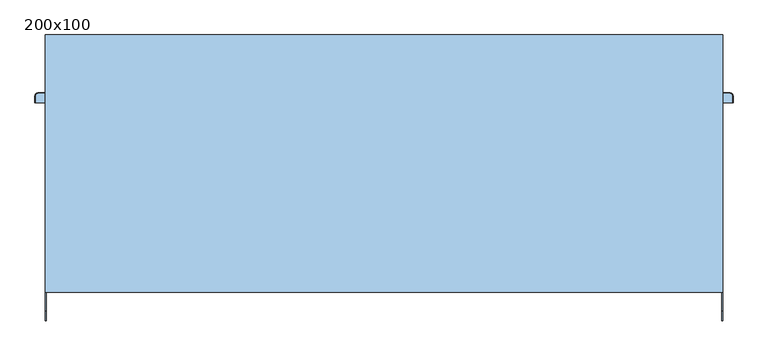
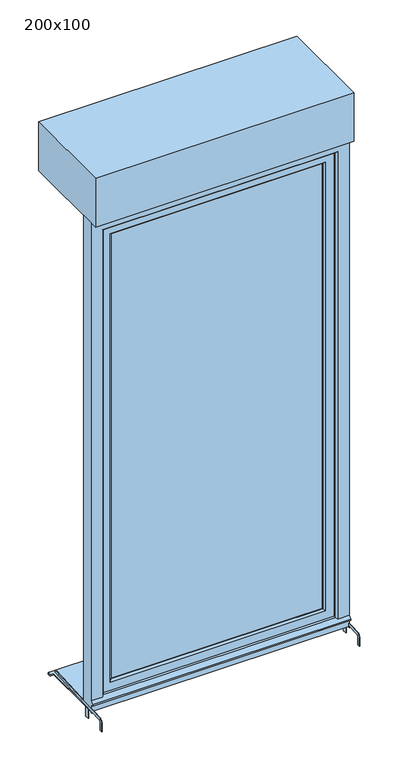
"""IFC4 building model written with IfcOpenShell, lengths in millimetres: window geometry, Tunnel 1V+VR+ Voile : 200x100."""

from ifc_helpers import new_model, si_unit, point, frame, frame_2d, origin, place, context, project, spatial, polyline, circle_curve, trimmed, segment, composite_curve, outline, extrude, faceted_brep, source, transform, mapped, element, save
from ifc_brep_helpers import plane_surface, cylinder_surface, revolved_surface, advanced_brep


def window_200x100_a15cc3b6(model_context):
    return source(origin(), model_context, "Body", "SolidModel", [
        faceted_brep([(-445.5, -87.0, 1306.0), (-445.5, -87.0, 1294.0), (-429.5, -87.0, 1294.0), (-429.5, -87.0, 1306.0), (-429.5, -74.5147186, 1306.0), (-445.5, -74.5147186, 1306.0), (-429.5, -79.4852814, 1294.0), (-429.5, -73.0, 1287.5147186), (-429.5, -73.0, 1287.2282668), (-429.5, -70.2419861, 1208.5355339), (-429.5, -61.0, 1208.5355339), (-429.5, -61.0, 1292.4852814), (-445.5, -79.4852814, 1294.0), (-445.5, -61.0, 1292.4852814), (-445.5, -61.0, 1208.5355339), (-445.5, -70.2419861, 1208.5355339), (-445.5, -72.9900091, 1287.2286157), (-445.5, -73.0, 1287.5147186), (-433.0355339, -61.0, 1205.0), (-433.0355339, -70.1185225, 1205.0), (-441.9644661, -70.1185225, 1205.0), (-441.9644661, -61.0, 1205.0)], [[[0, 1, 2, 3]], [[3, 4, 5, 0]], [[2, 6, 7, 8, 9, 10, 11, 4, 3]], [[1, 12, 6, 2]], [[0, 5, 13, 14, 15, 16, 17, 12, 1]], [[4, 11, 13, 5]], [[6, 12, 17, 7]], [[18, 19, 20, 21]], [[11, 10, 18, 21, 14, 13]], [[17, 16, 8, 7]], [[16, 15, 20, 19, 9, 8]], [[9, 19, 18, 10]], [[14, 21, 20, 15]]]),
        extrude(outline(polyline([(1330.0, -444.5), (1325.0, -449.5), (1275.0, -449.5), (1270.0, -444.5), (1270.0, -430.5), (1275.0, -425.5), (1325.0, -425.5), (1330.0, -430.5), (1330.0, -444.5)])), frame((0.0, -95.0, 0.0), z_axis=(0.0, 1.0, 0.0), x_axis=(0.0, 0.0, 1.0)), (0.0, 0.0, 1.0), 8.0),
        extrude(outline(polyline([(-115.0, 799.2138833), (-115.0, 762.0), (-130.0, 762.0), (-130.0, 798.4277666), (-115.0, 799.2138833)])), frame((-500.0, 0.0, 0.0), z_axis=(1.0, 0.0, 0.0), x_axis=(0.0, 1.0, 0.0)), (0.0, 0.0, 1.0), 2.0),
        extrude(outline(polyline([(-130.0, 798.4277666), (-115.0, 799.2138833), (-115.0, 762.0), (-130.0, 762.0), (-130.0, 798.4277666)])), frame((498.0, 0.0, 0.0), z_axis=(1.0, 0.0, 0.0), x_axis=(0.0, 1.0, 0.0)), (0.0, 0.0, 1.0), 2.0),
        extrude(outline(composite_curve([segment(polyline([(-221.5, 762.0), (-221.5, 795.1063906)]), True, "CONTINUOUS"), segment(trimmed(circle_curve(frame_2d((-206.5, 795.1063906)), 15.0), [point((-221.5, 795.1063906))], [point((-207.2850393, 810.0858337))], False, "CARTESIAN"), True, "CONTINUOUS"), segment(polyline([(-207.2850393, 810.0858337), (89.4766404, 825.6384543), (90.0, 815.6521589), (-150.0, 803.0742919), (-150.0, 797.379611), (-155.0, 797.1175721), (-155.0, 802.812253), (-206.7616798, 800.0995383)]), True, "CONTINUOUS"), segment(trimmed(circle_curve(frame_2d((-206.5, 795.1063906)), 5.0), [point((-206.7616798, 800.0995383))], [point((-211.5, 795.1063906))], True, "CARTESIAN"), True, "CONTINUOUS"), segment(polyline([(-211.5, 795.1063906), (-211.5, 762.0), (-221.5, 762.0)]), True, "CONTINUOUS")], self_intersect=False)), frame((498.0, 0.0, 0.0), z_axis=(1.0, 0.0, 0.0), x_axis=(0.0, 1.0, 0.0)), (0.0, 0.0, 1.0), 2.0),
        extrude(outline(composite_curve([segment(polyline([(-155.0, 797.1175721), (-155.0, 802.812253), (-206.7616798, 800.0995383)]), True, "CONTINUOUS"), segment(trimmed(circle_curve(frame_2d((-206.5, 795.1063906)), 5.0), [point((-206.7616798, 800.0995383))], [point((-211.5, 795.1063906))], True, "CARTESIAN"), True, "CONTINUOUS"), segment(polyline([(-211.5, 795.1063906), (-211.5, 762.0), (-221.5, 762.0), (-221.5, 795.1063906)]), True, "CONTINUOUS"), segment(trimmed(circle_curve(frame_2d((-206.5, 795.1063906)), 15.0), [point((-221.5, 795.1063906))], [point((-207.2850393, 810.0858337))], False, "CARTESIAN"), True, "CONTINUOUS"), segment(polyline([(-207.2850393, 810.0858337), (89.4766404, 825.6384543), (90.0, 815.6521589), (-150.0, 803.0742919), (-150.0, 797.379611), (-155.0, 797.1175721)]), True, "CONTINUOUS")], self_intersect=False)), frame((-500.0, 0.0, 0.0), z_axis=(1.0, 0.0, 0.0), x_axis=(0.0, 1.0, 0.0)), (0.0, 0.0, 1.0), 2.0),
        extrude(outline(polyline([(-410.0, -105.0), (410.0, -105.0), (410.0, -125.0), (-410.0, -125.0), (-410.0, -105.0)])), frame((0.0, 0.0, 890.0), z_axis=(0.0, 0.0, 1.0), x_axis=(1.0, 0.0, 0.0)), (0.0, 0.0, 1.0), 1820.0),
        faceted_brep([(-460.0, -95.0, 840.0), (460.0, -95.0, 840.0), (460.0, -135.0, 840.0), (-460.0, -135.0, 840.0), (460.0, -95.0, 2760.0), (460.0, -135.0, 2760.0), (-460.0, -135.0, 2760.0), (417.0710678, -135.0, 2717.0710678), (417.0710678, -135.0, 882.9289322), (-417.0710678, -135.0, 882.9289322), (-417.0710678, -135.0, 2717.0710678), (-460.0, -95.0, 2760.0), (417.0710678, -95.0, 882.9289322), (417.0710678, -95.0, 2717.0710678), (-417.0710678, -95.0, 2717.0710678), (-417.0710678, -95.0, 882.9289322), (-410.0, -102.0710678, 890.0), (410.0, -102.0710678, 890.0), (410.0, -102.0710678, 2710.0), (410.0, -127.9289322, 890.0), (410.0, -127.9289322, 2710.0), (-410.0, -127.9289322, 890.0), (-410.0, -102.0710678, 2710.0), (-410.0, -127.9289322, 2710.0)], [[[0, 1, 2, 3]], [[1, 4, 5, 2]], [[2, 5, 6, 3], [7, 8, 9, 10]], [[4, 1, 0, 11], [12, 13, 14, 15]], [[16, 17, 12, 15]], [[17, 18, 13, 12]], [[19, 20, 18, 17]], [[9, 8, 19, 21]], [[8, 7, 20, 19]], [[11, 0, 3, 6]], [[22, 16, 15, 14]], [[23, 21, 16, 22]], [[10, 9, 21, 23]], [[21, 19, 17, 16]], [[4, 11, 6, 5]], [[18, 22, 14, 13]], [[7, 10, 23, 20]], [[20, 23, 22, 18]]]),
        faceted_brep([(500.0, -150.0, 800.0), (500.0, -100.0, 800.0), (500.0, -100.0, 2800.0), (500.0, -150.0, 2800.0), (500.0, -150.0, 845.0), (500.0, -160.0, 835.0), (500.0, -160.0, 830.0), (500.0, -150.0, 830.0), (-500.0, -150.0, 830.0), (-500.0, -150.0, 800.0), (-500.0, -160.0, 830.0), (-500.0, -160.0, 835.0), (455.0, -150.0, 845.0), (450.0, -145.0, 850.0), (-450.0, -145.0, 850.0), (-455.0, -150.0, 845.0), (-500.0, -150.0, 845.0), (-500.0, -150.0, 2800.0), (-455.0, -150.0, 2755.0), (455.0, -150.0, 2755.0), (-500.0, -100.0, 800.0), (-500.0, -100.0, 2800.0), (460.0, -100.0, 840.0), (460.0, -100.0, 2760.0), (-460.0, -100.0, 2760.0), (-460.0, -100.0, 840.0), (-460.0, -135.0, 840.0), (460.0, -135.0, 840.0), (-460.0, -135.0, 2760.0), (460.0, -135.0, 2760.0), (450.0, -135.0, 850.0), (450.0, -135.0, 2750.0), (-450.0, -135.0, 2750.0), (-450.0, -135.0, 850.0), (-450.0, -145.0, 2750.0), (450.0, -145.0, 2750.0)], [[[0, 1, 2, 3, 4, 5, 6, 7]], [[7, 8, 9, 0]], [[6, 10, 8, 7]], [[5, 11, 10, 6]], [[5, 4, 12, 13, 14, 15, 16, 11]], [[17, 16, 15, 18, 19, 12, 4, 3]], [[1, 20, 21, 2], [22, 23, 24, 25]], [[0, 9, 20, 1]], [[9, 8, 10, 11, 16, 17, 21, 20]], [[25, 26, 27, 22]], [[26, 25, 24, 28]], [[22, 27, 29, 23]], [[29, 27, 26, 28], [30, 31, 32, 33]], [[33, 14, 13, 30]], [[34, 14, 33, 32]], [[31, 30, 13, 35]], [[35, 13, 12, 19]], [[18, 15, 14, 34]], [[3, 2, 21, 17]], [[28, 24, 23, 29]], [[31, 35, 34, 32]], [[18, 34, 35, 19]]]),
        advanced_brep(
        [(500.0, 100.0, 805.0), (513.9971508, 100.0, 805.0), (513.9971508, 110.0, 805.0), (510.0, 113.9971508, 805.0), (-510.0, 113.9971508, 805.0), (-513.9971508, 110.0, 805.0), (-513.9971508, 100.0, 805.0), (-500.0, 100.0, 805.0), (-500.0, -100.0, 805.0), (500.0, -100.0, 805.0), (-500.0, 100.0, 800.0), (-513.9971508, 100.0, 800.0), (-513.9971508, 110.0, 800.0), (-510.0, 113.9971508, 800.0), (510.0, 113.9971508, 800.0), (513.9971508, 110.0, 800.0), (513.9971508, 100.0, 800.0), (500.0, 100.0, 800.0), (500.0, -100.0, 800.0), (-500.0, -100.0, 800.0), (-515.0, 110.0, 801.0028492), (-515.0, 100.0, 801.0028492), (-515.0, 100.0, 803.9971508), (-515.0, 110.0, 803.9971508), (515.0, 100.0, 801.0028492), (515.0, 100.0, 803.9971508), (515.0, 110.0, 801.0028492), (515.0, 110.0, 803.9971508), (510.0, 115.0, 801.0028492), (-510.0, 115.0, 801.0028492), (-510.0, 115.0, 803.9971508), (510.0, 115.0, 803.9971508)],
        [
            (0, 1),
            (1, 2),
            (2, 3, circle_curve(frame((510.0, 110.0, 805.0), z_axis=(0.0, 0.0, 1.0), x_axis=(0.0, 1.0, 0.0)), 3.9971508)),
            (3, 4),
            (4, 5, circle_curve(frame((-510.0, 110.0, 805.0), z_axis=(0.0, 0.0, 1.0), x_axis=(-1.0, 0.0, 0.0)), 3.9971508)),
            (5, 6),
            (6, 7),
            (7, 8),
            (8, 9),
            (9, 0),
            (10, 11),
            (11, 12),
            (12, 13, circle_curve(frame((-510.0, 110.0, 800.0), z_axis=(0.0, 0.0, -1.0), x_axis=(-1.0, 0.0, 0.0)), 3.9971508)),
            (13, 14),
            (14, 15, circle_curve(frame((510.0, 110.0, 800.0), z_axis=(0.0, 0.0, -1.0), x_axis=(0.0, 1.0, 0.0)), 3.9971508)),
            (15, 16),
            (16, 17),
            (17, 18),
            (18, 19),
            (19, 10),
            (20, 21),
            (21, 22),
            (22, 23),
            (23, 20),
            (6, 22),
            (21, 11),
            (10, 7),
            (19, 8),
            (18, 9),
            (17, 0),
            (16, 24),
            (24, 25),
            (25, 1),
            (24, 26),
            (26, 27),
            (27, 25),
            (28, 29),
            (29, 30),
            (30, 31),
            (31, 28),
            (31, 27, circle_curve(frame((510.0, 110.0, 803.9971508), z_axis=(0.0, 0.0, -1.0), x_axis=(0.0, 1.0, 0.0)), 5.0)),
            (26, 28, circle_curve(frame((510.0, 110.0, 801.0028492), z_axis=(0.0, 0.0, 1.0), x_axis=(0.0, 1.0, 0.0)), 5.0)),
            (23, 30, circle_curve(frame((-510.0, 110.0, 803.9971508), z_axis=(0.0, 0.0, -1.0), x_axis=(0.0, 1.0, 0.0)), 5.0)),
            (29, 20, circle_curve(frame((-510.0, 110.0, 801.0028492), z_axis=(0.0, 0.0, 1.0), x_axis=(0.0, 1.0, 0.0)), 5.0)),
            (5, 23),
            (20, 12),
            (4, 30),
            (29, 13),
            (3, 31),
            (28, 14),
            (2, 27),
            (26, 15),
        ],
        [
            plane_surface(frame((-515.0, 100.0, 805.0), z_axis=(0.0, 0.0, 1.0), x_axis=(0.0, 1.0, 0.0))),
            plane_surface(frame((-515.0, 100.0, 800.0), z_axis=(0.0, 0.0, -1.0), x_axis=(0.0, -1.0, 0.0))),
            plane_surface(frame((-515.0, 110.0, 800.0), z_axis=(-1.0, 0.0, 0.0), x_axis=(0.0, 0.0, 1.0))),
            plane_surface(frame((-515.0, 100.0, 800.0), z_axis=(0.0, -1.0, 0.0), x_axis=(0.0, 0.0, 1.0))),
            plane_surface(frame((-500.0, 100.0, 800.0), z_axis=(-1.0, 0.0, 0.0), x_axis=(0.0, 0.0, 1.0))),
            plane_surface(frame((-500.0, -100.0, 800.0), z_axis=(0.0, -1.0, 0.0), x_axis=(0.0, 0.0, 1.0))),
            plane_surface(frame((500.0, -100.0, 800.0), z_axis=(1.0, 0.0, 0.0), x_axis=(0.0, 0.0, 1.0))),
            plane_surface(frame((500.0, 100.0, 800.0), z_axis=(0.0, -1.0, 0.0), x_axis=(0.0, 0.0, 1.0))),
            plane_surface(frame((515.0, 100.0, 800.0), z_axis=(1.0, 0.0, 0.0), x_axis=(0.0, 0.0, 1.0))),
            plane_surface(frame((510.0, 115.0, 800.0), z_axis=(0.0, 1.0, 0.0), x_axis=(0.0, 0.0, 1.0))),
            cylinder_surface(frame((510.0, 110.0, 805.0), z_axis=(0.0, 0.0, -1.0), x_axis=(0.0, 1.0, 0.0)), 5.0),
            cylinder_surface(frame((-510.0, 110.0, 805.0), z_axis=(0.0, 0.0, -1.0), x_axis=(0.0, 1.0, 0.0)), 5.0),
            plane_surface(frame((-513.9971508, 100.0, 805.0), z_axis=(-0.7071067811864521, 0.0, 0.707106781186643), x_axis=(0.0, 1.0, 0.0))),
            plane_surface(frame((-515.0, 100.0, 801.0028492), z_axis=(-0.7071067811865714, 0.0, -0.7071067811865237), x_axis=(0.0, 1.0, 0.0))),
            revolved_surface(polyline([(-515.0, 110.0, 803.9971508), (-513.9971508, 110.0, 805.0)]), (-510.0, 110.0, 805.0), (0.0, 0.0, 1.0)),
            revolved_surface(polyline([(-513.9971508, 110.0, 800.0), (-515.0, 110.0, 801.0028492)]), (-510.0, 110.0, 805.0), (0.0, 0.0, 1.0)),
            plane_surface(frame((-510.0, 113.9971508, 805.0), z_axis=(0.0, 0.7071067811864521, 0.707106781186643), x_axis=(1.0, 0.0, 0.0))),
            plane_surface(frame((-510.0, 115.0, 801.0028492), z_axis=(0.0, 0.7071067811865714, -0.7071067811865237), x_axis=(1.0, 0.0, 0.0))),
            revolved_surface(polyline([(510.0, 115.0, 803.9971508), (510.0, 113.9971508, 805.0)]), (510.0, 110.0, 805.0), (0.0, 0.0, 1.0)),
            revolved_surface(polyline([(510.0, 113.9971508, 800.0), (510.0, 115.0, 801.0028492)]), (510.0, 110.0, 805.0), (0.0, 0.0, 1.0)),
            plane_surface(frame((513.9971508, 110.0, 805.0), z_axis=(0.7071067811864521, 0.0, 0.707106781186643), x_axis=(0.0, -1.0, 0.0))),
            plane_surface(frame((515.0, 110.0, 801.0028492), z_axis=(0.7071067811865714, 0.0, -0.7071067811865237), x_axis=(0.0, -1.0, 0.0))),
        ],
        [
            (0, [[1, 2, 3, 4, 5, 6, 7, 8, 9, 10]]),
            (1, [[11, 12, 13, 14, 15, 16, 17, 18, 19, 20]]),
            (2, [[21, 22, 23, 24]]),
            (3, [[-7, 25, -22, 26, -11, 27]]),
            (4, [[-27, -20, 28, -8]]),
            (5, [[-28, -19, 29, -9]]),
            (6, [[-29, -18, 30, -10]]),
            (7, [[-17, 31, 32, 33, -1, -30]]),
            (8, [[34, 35, 36, -32]]),
            (9, [[37, 38, 39, 40]]),
            (10, [[41, -35, 42, -40]]),
            (11, [[43, -38, 44, -24]]),
            (12, [[-23, -25, -6, 45]]),
            (13, [[-12, -26, -21, 46]]),
            (14, [[-5, 47, -43, -45]]),
            (15, [[-44, 48, -13, -46]]),
            (16, [[-4, 49, -39, -47]]),
            (17, [[-37, 50, -14, -48]]),
            (18, [[-3, 51, -41, -49]]),
            (19, [[-42, 52, -15, -50]]),
            (20, [[-2, -33, -36, -51]]),
            (21, [[-34, -31, -16, -52]]),
        ],
    ),
        extrude(outline(polyline([(-500.0, 200.0), (500.0, 200.0), (500.0, -180.0), (-500.0, -180.0), (-500.0, 200.0)])), frame((0.0, 0.0, 2800.0), z_axis=(0.0, 0.0, 1.0), x_axis=(1.0, 0.0, 0.0)), (0.0, 0.0, 1.0), 200.0),
    ])


if __name__ == "__main__":
    model = new_model("IFC4")
    model_context = context("Model", 3, world=origin())
    ifc_project = project(units=[si_unit("LENGTHUNIT", "METRE", prefix="MILLI")], contexts=[model_context])
    site = spatial("IfcSite", under=ifc_project)
    building = spatial("IfcBuilding", under=site)
    placement = place(None, origin())
    window_200x100_shape = window_200x100_a15cc3b6(model_context)
    element("IfcWindow", 1, ObjectType="Tunnel 1V+VR+ Voile : 200x100", at=placement, inside=building, context=model_context, shape_type="MappedRepresentation", body=[
        mapped(window_200x100_shape, transform((0.0, 0.0, 0.0), x_axis=(1.0, 0.0, 0.0), y_axis=(0.0, 1.0, 0.0), z_axis=(0.0, 0.0, 1.0))),
    ])
    save(model, "model.ifc")
